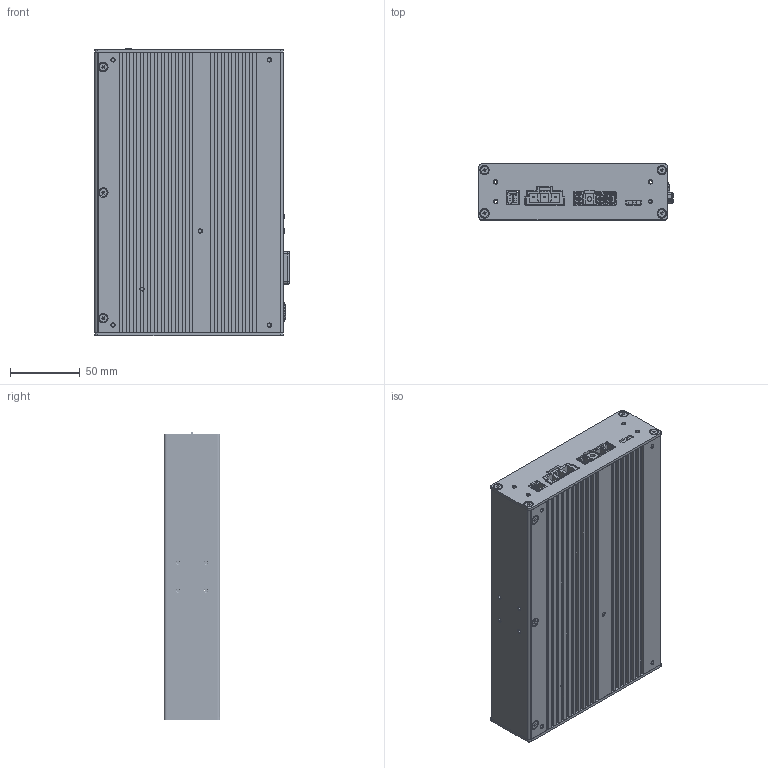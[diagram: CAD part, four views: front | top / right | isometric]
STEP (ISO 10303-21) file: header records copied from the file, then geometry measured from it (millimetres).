
FILE_DESCRIPTION (( 'STEP AP203' ), '1' );
FILE_NAME ('MINI-勤俋.STEP', '2024-03-19T07:12:41', ( '' ), ( '' ), 'SwSTEP 2.0', 'SolidWorks 2017', '' );
FILE_SCHEMA (( 'CONFIG_CONTROL_DESIGN' ));
Length unit declared in the file: millimetre
Products named in the file (28): PRT0001; MINI-勤俋; CON2X4-3_5P-15EDGRHCM-THR; CON3-7_92P-DF22-3PIN; 15EDGRHCM-THR5_08-08P-00A_H_; CON2-4P-S02B-PSILE-A1; CON3-5_0P-2EDGRM; USB-A-TH-482040001; 2EDGRM-5.0-03P-14-100A1; COMPONENTS; CON2X14-3_5P-15EDGRHCM-THR; K3-1204D-L; EC mini V2-0-0819; DF22-3P-7.92DS; RJ45-2-406549-1; S02B-PSILE-A1; K3-1204D-L_2; 743201007; hexagon socket countersunk head screws gb_GB_FASTENER_SCREWS_HSCHS M3X8-N; u221-041n-1bu07-s1; mini嶄嶺耀俋倛3; hexagon socket countersunk head screws gb_GB_FASTENER_SCREWS_HSCHS M4X16-N; GQ12F-10DT; 111; C-2-406549-1; CON3-7_62P-9EDGRS; DVI-24PX5P
Assembly tree (45 placements, depth 6):
  MINI-勤俋
    mini嶄嶺耀俋倛3
    GQ12F-10DT
    hexagon socket countersunk head screws gb_GB_FASTENER_SCREWS_HSCHS M4X16-N  x6
    hexagon socket countersunk head screws gb_GB_FASTENER_SCREWS_HSCHS M3X8-N  x14
    EC mini V2-0-0819
      COMPONENTS
        CON3-5_0P-2EDGRM
          2EDGRM-5.0-03P-14-100A1
        CON2X4-3_5P-15EDGRHCM-THR
          15EDGRHCM-THR5_08-08P-00A_H_
        CON2X14-3_5P-15EDGRHCM-THR
          111
        CON3-7_92P-DF22-3PIN
          DF22-3P-7.92DS
        RJ45-2-406549-1
          C-2-406549-1
        USB-A-TH-482040001
          u221-041n-1bu07-s1
        CON2-4P-S02B-PSILE-A1
          S02B-PSILE-A1
        CON3-7_62P-9EDGRS
          PRT0001
        K3-1204D-L
          K3-1204D-L_2
            K3-1204D-L
        DVI-24PX5P
          743201007
Bounding box: 139.06 x 40 x 205.9 mm (x, y, z)
Volume: 274691.7 mm3; surface area: 217315.9 mm2
Topology: 37 solids, 122 shells, 7691 faces, 21181 edges, 13826 vertices
Faces by surface type: plane 4911, cylinder 2142, cone 340, bspline 242, torus 56
Entity records: 264053 total; most frequent: CARTESIAN_POINT 82091, ORIENTED_EDGE 39954, DIRECTION 32246, EDGE_CURVE 20096, VECTOR 13580, LINE 13580, VERTEX_POINT 13232, AXIS2_PLACEMENT_3D 9333
